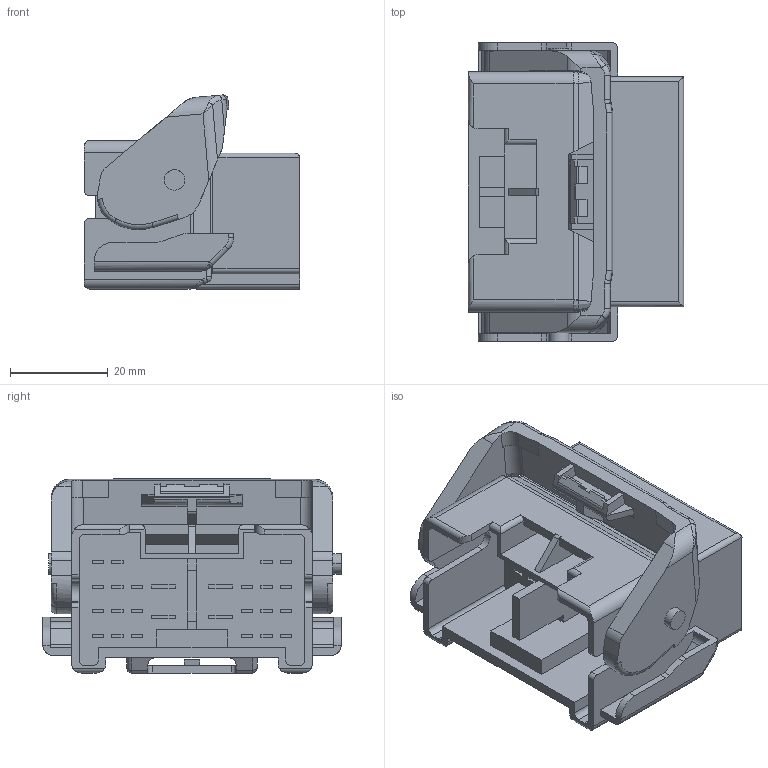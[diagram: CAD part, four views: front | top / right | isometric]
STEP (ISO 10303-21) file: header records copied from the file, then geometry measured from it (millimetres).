
FILE_DESCRIPTION(('CATIA V5 STEP','CAx-IF Rec.Pracs.--- Model Styling and Organization---1.4--- 2014-01-23'),'2;1');
FILE_NAME('N:\C-DAM_MyDesk\CONE1\COMMON\11_TOYOTA\カタログ\90980-11610_中野\6249_1254_open.stp','2023-09-11T10:55:05+00:00',('none'),('none'),'CATIA Version 5-6 Release 2017 SP5 HF58','CATIA V5 STEP AP214','none');
FILE_SCHEMA(('AUTOMOTIVE_DESIGN { 1 0 10303 214 1 1 1 1 }'));
Length unit declared in the file: millimetre
Products named in the file (1): 6249_1254_open
Bounding box: 44 x 61 x 39.67 mm (x, y, z)
Volume: 39610.3 mm3; surface area: 20512.7 mm2
Topology: 2 solids, 2 shells, 666 faces, 1758 edges, 1137 vertices
Faces by surface type: plane 474, cylinder 140, bspline 34, torus 16, sphere 2
Entity records: 20517 total; most frequent: CARTESIAN_POINT 5775, ORIENTED_EDGE 3496, DIRECTION 2214, EDGE_CURVE 1748, VECTOR 1359, LINE 1359, VERTEX_POINT 1137, EDGE_LOOP 727
